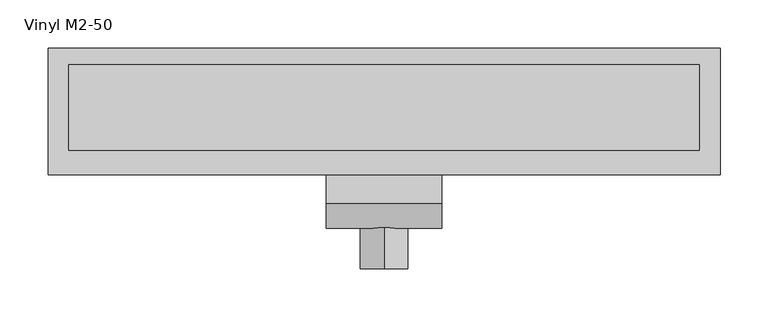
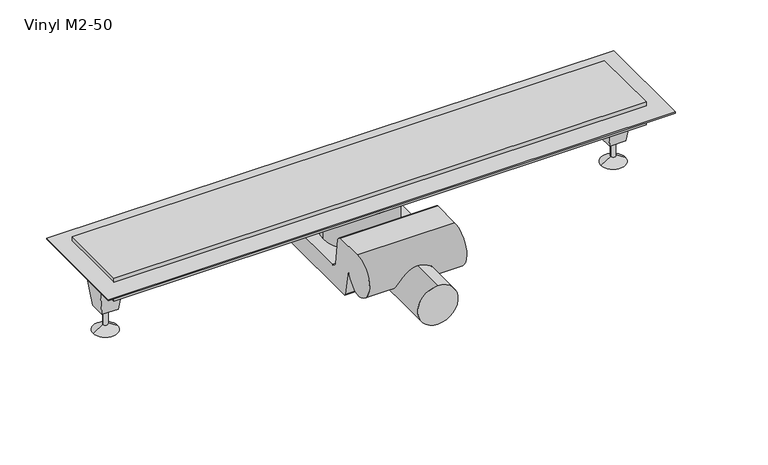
"""IFC4 building model written with IfcOpenShell, lengths in millimetres: sanitary terminal geometry, NLRS_PF_52_UN_Vinyl_Easydrain : Vinyl M2-50."""

from ifc_helpers import new_model, si_unit, point, frame, frame_2d, origin, origin_2d, place, context, project, spatial, polyline, circle_curve, trimmed, segment, composite_curve, outline, extrude, faceted_brep, source, transform, mapped, element, save
from ifc_brep_helpers import plane_surface, cylinder_surface, revolved_surface, advanced_brep


def vinyl_m2_50_b73f0109(model_context):
    return source(origin(), model_context, "Body", "SolidModel", [
        extrude(outline(composite_curve([segment(trimmed(circle_curve(origin_2d(), 44.5), [point((-44.5, 0.0))], [point((44.5, 0.0))], False, "CARTESIAN"), True, "CONTINUOUS"), segment(trimmed(circle_curve(origin_2d(), 44.5), [point((44.5, 0.0))], [point((-44.5, 0.0))], False, "CARTESIAN"), True, "CONTINUOUS")], self_intersect=False)), frame((0.0, 0.0, -75.0), z_axis=(0.0, 0.0, 1.0), x_axis=(1.0, 0.0, 0.0)), (0.0, 0.0, 1.0), 45.0),
        extrude(outline(composite_curve([segment(trimmed(circle_curve(frame_2d((-75.0, 0.0)), 25.0), [point((-100.0, 0.0))], [point((-50.0, 0.0))], False, "CARTESIAN"), True, "CONTINUOUS"), segment(trimmed(circle_curve(frame_2d((-75.0, 0.0)), 25.0), [point((-50.0, 0.0))], [point((-100.0, 0.0))], False, "CARTESIAN"), True, "CONTINUOUS")], self_intersect=False)), frame((0.0, -168.0, 0.0), z_axis=(0.0, 1.0, 0.0), x_axis=(0.0, 0.0, 1.0)), (0.0, 0.0, 1.0), 108.0),
        extrude(outline(composite_curve([segment(trimmed(circle_curve(frame_2d((43.3675767, -94.3675767)), 4.6324233), [point((48.0, -94.3675767))], [point((43.3675767, -99.0))], False, "CARTESIAN"), True, "CONTINUOUS"), segment(polyline([(43.3675767, -99.0), (-72.4993465, -99.0)]), True, "CONTINUOUS"), segment(trimmed(circle_curve(frame_2d((-57.5994856, -88.4484197)), 18.2576478), [point((-72.4993465, -99.0))], [point((-73.552105, -97.3284894))], False, "CARTESIAN"), True, "CONTINUOUS"), segment(polyline([(-73.552105, -97.3284894), (-81.2265197, -57.3213396)]), True, "CONTINUOUS"), segment(trimmed(circle_curve(frame_2d((-106.1958615, -57.3213396)), 24.9693419), [point((-81.2265197, -57.3213396))], [point((-103.6080394, -82.1562185))], False, "CARTESIAN"), True, "CONTINUOUS"), segment(trimmed(circle_curve(frame_2d((-99.7550745, -56.2055177)), 26.2351712), [point((-103.6080394, -82.1562185))], [point((-99.7550745, -29.9703465))], False, "CARTESIAN"), True, "CONTINUOUS"), segment(polyline([(-99.7550745, -29.9703465), (-63.5850447, -29.9703465)]), True, "CONTINUOUS"), segment(trimmed(circle_curve(frame_2d((-67.7798686, -40.118651)), 10.9811034), [point((-63.5850447, -29.9703465))], [point((-58.0809557, -34.9693093))], False, "CARTESIAN"), True, "CONTINUOUS"), segment(polyline([(-58.0809557, -34.9693093), (-53.2149251, -70.0)]), True, "CONTINUOUS"), segment(trimmed(circle_curve(frame_2d((-46.2657703, -67.6709247)), 7.3290753), [point((-53.2149251, -70.0))], [point((-46.2657703, -75.0))], True, "CARTESIAN"), True, "CONTINUOUS"), segment(polyline([(-46.2657703, -75.0), (42.6324233, -75.0)]), True, "CONTINUOUS"), segment(trimmed(circle_curve(frame_2d((42.6324233, -80.3675767)), 5.3675767), [point((42.6324233, -75.0))], [point((48.0, -80.3675767))], False, "CARTESIAN"), True, "CONTINUOUS"), segment(polyline([(48.0, -80.3675767), (48.0, -94.3675767)]), True, "CONTINUOUS")], self_intersect=False)), frame((-60.0, 0.0, 0.0), z_axis=(1.0, 0.0, 0.0), x_axis=(0.0, 1.0, 0.0)), (0.0, 0.0, 1.0), 120.0),
        advanced_brep(
        [(316.5, 0.0, -70.0), (310.5, 0.0, -70.0), (313.5, 0.0, -70.0), (316.5, 0.0, -91.5), (310.5, 0.0, -91.5), (328.5, 0.0, -99.0), (298.5, 0.0, -99.0), (313.5, 0.0, -99.0)],
        [
            (0, 1, circle_curve(frame((313.5, 0.0, -70.0), z_axis=(0.0, 0.0, 1.0), x_axis=(-1.0, 0.0, 0.0)), 3.0)),
            (1, 2),
            (2, 0),
            (1, 0, circle_curve(frame((313.5, 0.0, -70.0), z_axis=(0.0, 0.0, 1.0), x_axis=(-1.0, 0.0, 0.0)), 3.0)),
            (3, 4, circle_curve(frame((313.5, 0.0, -91.5), z_axis=(0.0, 0.0, 1.0), x_axis=(-1.0, 0.0, 0.0)), 3.0)),
            (4, 1),
            (0, 3),
            (4, 3, circle_curve(frame((313.5, 0.0, -91.5), z_axis=(0.0, 0.0, 1.0), x_axis=(-1.0, 0.0, 0.0)), 3.0)),
            (5, 6, circle_curve(frame((313.5, 0.0, -99.0), z_axis=(0.0, 0.0, 1.0), x_axis=(-1.0, 0.0, 0.0)), 15.0)),
            (6, 4),
            (3, 5),
            (6, 5, circle_curve(frame((313.5, 0.0, -99.0), z_axis=(0.0, 0.0, 1.0), x_axis=(-1.0, 0.0, 0.0)), 15.0)),
            (7, 6),
            (5, 7),
        ],
        [
            plane_surface(frame((313.5, 0.0, -70.0), z_axis=(0.0, 0.0, 1.0), x_axis=(-1.0, 0.0, 0.0))),
            cylinder_surface(frame((313.5, 0.0, -107.1782032), z_axis=(0.0, 0.0, -1.0), x_axis=(-1.0, 0.0, 0.0)), 3.0),
            revolved_surface(polyline([(310.5, 0.0, -91.5), (298.5, 0.0, -99.0)]), (313.5, 0.0, -107.1782032), (0.0, 0.0, -1.0)),
            plane_surface(frame((313.5, 0.0, -99.0), z_axis=(0.0, 0.0, -1.0), x_axis=(-1.0, 0.0, 0.0))),
        ],
        [
            (0, [[1, 2, 3]]),
            (0, [[4, -3, -2]]),
            (1, [[5, 6, -1, 7]]),
            (1, [[8, -7, -4, -6]]),
            (2, [[9, 10, -5, 11]]),
            (2, [[12, -11, -8, -10]]),
            (3, [[13, -9, 14]]),
            (3, [[-14, -12, -13]]),
        ],
    ),
        faceted_brep([(303.5, 10.0, -70.0), (323.5, 10.0, -70.0), (323.5, -10.0, -70.0), (303.5, -10.0, -70.0), (298.5, 15.0, -30.0), (298.5, -15.0, -30.0), (328.5, -15.0, -30.0), (328.5, 15.0, -30.0)], [[[0, 1, 2, 3]], [[4, 5, 6, 7]], [[5, 4, 0, 3]], [[6, 5, 3, 2]], [[7, 6, 2, 1]], [[4, 7, 1, 0]]]),
        advanced_brep(
        [(-310.5, 0.0, -70.0), (-316.5, 0.0, -70.0), (-313.5, 0.0, -70.0), (-310.5, 0.0, -91.5), (-316.5, 0.0, -91.5), (-298.5, 0.0, -99.0), (-328.5, 0.0, -99.0), (-313.5, 0.0, -99.0)],
        [
            (0, 1, circle_curve(frame((-313.5, 0.0, -70.0), z_axis=(0.0, 0.0, 1.0), x_axis=(-1.0, 0.0, 0.0)), 3.0)),
            (1, 2),
            (2, 0),
            (1, 0, circle_curve(frame((-313.5, 0.0, -70.0), z_axis=(0.0, 0.0, 1.0), x_axis=(-1.0, 0.0, 0.0)), 3.0)),
            (3, 4, circle_curve(frame((-313.5, 0.0, -91.5), z_axis=(0.0, 0.0, 1.0), x_axis=(-1.0, 0.0, 0.0)), 3.0)),
            (4, 1),
            (0, 3),
            (4, 3, circle_curve(frame((-313.5, 0.0, -91.5), z_axis=(0.0, 0.0, 1.0), x_axis=(-1.0, 0.0, 0.0)), 3.0)),
            (5, 6, circle_curve(frame((-313.5, 0.0, -99.0), z_axis=(0.0, 0.0, 1.0), x_axis=(-1.0, 0.0, 0.0)), 15.0)),
            (6, 4),
            (3, 5),
            (6, 5, circle_curve(frame((-313.5, 0.0, -99.0), z_axis=(0.0, 0.0, 1.0), x_axis=(-1.0, 0.0, 0.0)), 15.0)),
            (7, 6),
            (5, 7),
        ],
        [
            plane_surface(frame((-313.5, 0.0, -70.0), z_axis=(0.0, 0.0, 1.0), x_axis=(-1.0, 0.0, 0.0))),
            cylinder_surface(frame((-313.5, 0.0, -107.1782032), z_axis=(0.0, 0.0, -1.0), x_axis=(-1.0, 0.0, 0.0)), 3.0),
            revolved_surface(polyline([(-316.5, 0.0, -91.5), (-328.5, 0.0, -99.0)]), (-313.5, 0.0, -107.1782032), (0.0, 0.0, -1.0)),
            plane_surface(frame((-313.5, 0.0, -99.0), z_axis=(0.0, 0.0, -1.0), x_axis=(-1.0, 0.0, 0.0))),
        ],
        [
            (0, [[1, 2, 3]]),
            (0, [[4, -3, -2]]),
            (1, [[5, 6, -1, 7]]),
            (1, [[8, -7, -4, -6]]),
            (2, [[9, 10, -5, 11]]),
            (2, [[12, -11, -8, -10]]),
            (3, [[13, -9, 14]]),
            (3, [[-14, -12, -13]]),
        ],
    ),
        faceted_brep([(-323.5, 10.0, -70.0), (-303.5, 10.0, -70.0), (-303.5, -10.0, -70.0), (-323.5, -10.0, -70.0), (-328.5, 15.0, -30.0), (-328.5, -15.0, -30.0), (-298.5, -15.0, -30.0), (-298.5, 15.0, -30.0)], [[[0, 1, 2, 3]], [[4, 5, 6, 7]], [[5, 4, 0, 3]], [[6, 5, 3, 2]], [[7, 6, 2, 1]], [[4, 7, 1, 0]]]),
        extrude(outline(polyline([(328.5, 44.5), (328.5, -44.5), (-328.5, -44.5), (-328.5, 44.5), (328.5, 44.5)])), frame((0.0, 0.0, -5.0), z_axis=(0.0, 0.0, 1.0), x_axis=(1.0, 0.0, 0.0)), (0.0, 0.0, 1.0), 5.0),
        extrude(outline(polyline([(350.0, 62.0), (350.0, -70.0), (-350.0, -70.0), (-350.0, 62.0), (350.0, 62.0)])), frame((0.0, 0.0, -6.5), z_axis=(0.0, 0.0, 1.0), x_axis=(1.0, 0.0, 0.0)), (0.0, 0.0, 1.0), 1.5),
        extrude(outline(polyline([(328.5, 44.5), (328.5, -44.5), (-328.5, -44.5), (-328.5, 44.5), (328.5, 44.5)])), frame((0.0, 0.0, -30.0), z_axis=(0.0, 0.0, 1.0), x_axis=(1.0, 0.0, 0.0)), (0.0, 0.0, 1.0), 25.0),
    ])


if __name__ == "__main__":
    model = new_model("IFC4")
    model_context = context("Model", 3, world=origin())
    ifc_project = project(units=[si_unit("LENGTHUNIT", "METRE", prefix="MILLI")], contexts=[model_context])
    site = spatial("IfcSite", under=ifc_project)
    building = spatial("IfcBuilding", under=site)
    placement = place(None, origin())
    vinyl_m2_50_shape = vinyl_m2_50_b73f0109(model_context)
    element("IfcSanitaryTerminal", 1, ObjectType="NLRS_PF_52_UN_Vinyl_Easydrain : Vinyl M2-50", at=placement, inside=building, context=model_context, shape_type="MappedRepresentation", body=[
        mapped(vinyl_m2_50_shape, transform((0.0, 0.0, 0.0), x_axis=(1.0, 0.0, 0.0), y_axis=(0.0, 1.0, 0.0), z_axis=(0.0, 0.0, 1.0))),
    ])
    save(model, "model.ifc")
